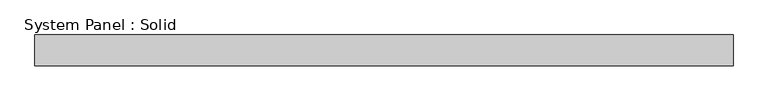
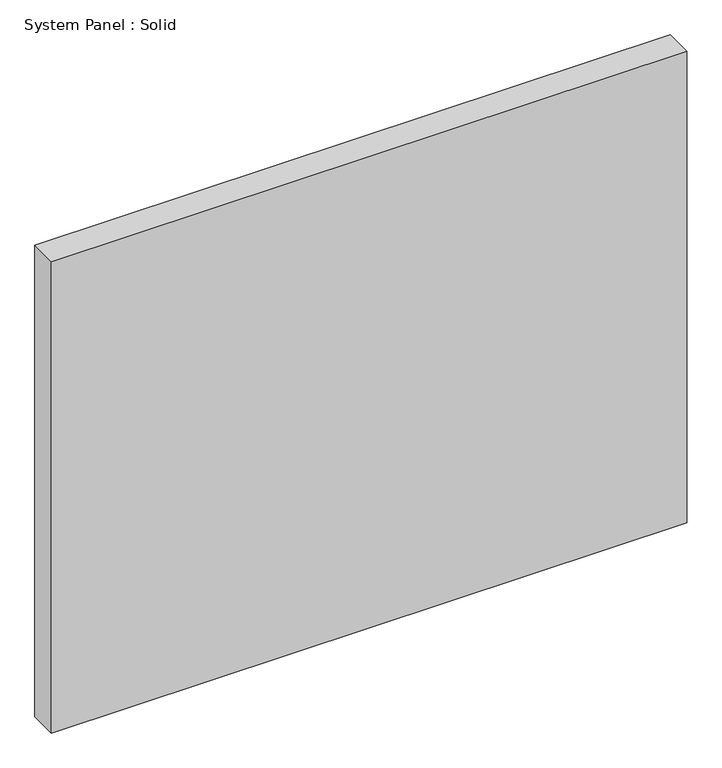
"""IFC4 building model written with IfcOpenShell, lengths in millimetres: plate geometry, System Panel : Solid."""

from ifc_helpers import new_model, si_unit, origin, origin_with_axes, place, context, project, spatial, polyline, outline, extrude, source, transform, mapped, element, save


def system_panel_solid_056e0ced(model_context):
    return source(origin(), model_context, "Body", "SweptSolid", [
        extrude(outline(polyline([(716.474875, -19.05), (-716.474875, -19.05), (-716.474875, 44.45), (716.474875, 44.45), (716.474875, -19.05)])), origin_with_axes(), (0.0, 0.0, 1.0), 1123.95),
    ])


if __name__ == "__main__":
    model = new_model("IFC4")
    model_context = context("Model", 3, world=origin())
    ifc_project = project(units=[si_unit("LENGTHUNIT", "METRE", prefix="MILLI")], contexts=[model_context])
    site = spatial("IfcSite", under=ifc_project)
    building = spatial("IfcBuilding", under=site)
    placement = place(None, origin())
    system_panel_solid_shape = system_panel_solid_056e0ced(model_context)
    element("IfcPlate", 1, ObjectType="System Panel : Solid", at=placement, inside=building, context=model_context, shape_type="MappedRepresentation", body=[
        mapped(system_panel_solid_shape, transform((0.0, 0.0, 0.0), x_axis=(1.0, 0.0, 0.0), y_axis=(0.0, 1.0, 0.0), z_axis=(0.0, 0.0, 1.0))),
    ])
    save(model, "model.ifc")
